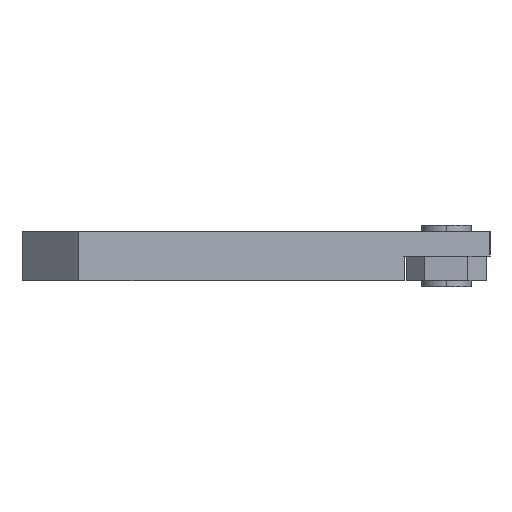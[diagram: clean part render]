
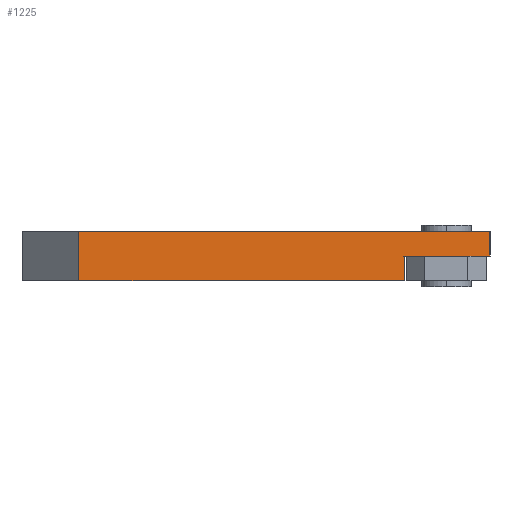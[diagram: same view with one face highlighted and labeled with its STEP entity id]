
A CAD part, left-side view. The second image highlights one B-rep face of the part: STEP entity #1225.
In plain terms, the highlighted planar face has unit normal (-0.707, -0.707, 0).
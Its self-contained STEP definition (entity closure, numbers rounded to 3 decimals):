
#18 = CARTESIAN_POINT ( 'NONE',  ( -2.121, -7.071, 4. ) ) ;
#27 = EDGE_CURVE ( 'NONE', #801, #542, #577, .T. ) ;
#30 = VERTEX_POINT ( 'NONE', #702 ) ;
#39 = ORIENTED_EDGE ( 'NONE', *, *, #1460, .F. ) ;
#41 = VECTOR ( 'NONE', #1505, 1000. ) ;
#47 = VECTOR ( 'NONE', #224, 1000. ) ;
#52 = ORIENTED_EDGE ( 'NONE', *, *, #267, .F. ) ;
#68 = CARTESIAN_POINT ( 'NONE',  ( -68.589, 59.397, -4. ) ) ;
#78 = EDGE_CURVE ( 'NONE', #149, #30, #1179, .T. ) ;
#104 = CARTESIAN_POINT ( 'NONE',  ( -68.589, 59.397, 4. ) ) ;
#118 = ORIENTED_EDGE ( 'NONE', *, *, #27, .F. ) ;
#127 = PLANE ( 'NONE',  #697 ) ;
#149 = VERTEX_POINT ( 'NONE', #743 ) ;
#154 = DIRECTION ( 'NONE',  ( 0.707, -0.707, 0. ) ) ;
#215 = CARTESIAN_POINT ( 'NONE',  ( -2.121, -7.071, 4. ) ) ;
#224 = DIRECTION ( 'NONE',  ( 0.707, -0.707, 0. ) ) ;
#267 = EDGE_CURVE ( 'NONE', #270, #30, #1146, .T. ) ;
#270 = VERTEX_POINT ( 'NONE', #215 ) ;
#304 = CARTESIAN_POINT ( 'NONE',  ( -15.91, 6.718, -4. ) ) ;
#313 = ORIENTED_EDGE ( 'NONE', *, *, #1303, .T. ) ;
#347 = EDGE_CURVE ( 'NONE', #1184, #542, #1528, .T. ) ;
#358 = CARTESIAN_POINT ( 'NONE',  ( -6.5, -2.692, 0. ) ) ;
#359 = VECTOR ( 'NONE', #366, 1000. ) ;
#366 = DIRECTION ( 'NONE',  ( 0.707, -0.707, 0. ) ) ;
#384 = CARTESIAN_POINT ( 'NONE',  ( -2.121, -7.071, 0. ) ) ;
#398 = CARTESIAN_POINT ( 'NONE',  ( -15.91, 6.718, 0. ) ) ;
#427 = LINE ( 'NONE', #871, #573 ) ;
#527 = DIRECTION ( 'NONE',  ( 0.707, -0.707, 0. ) ) ;
#542 = VERTEX_POINT ( 'NONE', #68 ) ;
#573 = VECTOR ( 'NONE', #527, 1000. ) ;
#577 = LINE ( 'NONE', #711, #770 ) ;
#583 = VERTEX_POINT ( 'NONE', #398 ) ;
#598 = DIRECTION ( 'NONE',  ( 0., 0., 1. ) ) ;
#644 = VECTOR ( 'NONE', #598, 1000. ) ;
#645 = VECTOR ( 'NONE', #154, 1000. ) ;
#697 = AXIS2_PLACEMENT_3D ( 'NONE', #18, #960, #1228 ) ;
#702 = CARTESIAN_POINT ( 'NONE',  ( -2.121, -7.071, 0. ) ) ;
#711 = CARTESIAN_POINT ( 'NONE',  ( -68.589, 59.397, -4. ) ) ;
#743 = CARTESIAN_POINT ( 'NONE',  ( -2.692, -6.5, 0. ) ) ;
#770 = VECTOR ( 'NONE', #1328, 1000. ) ;
#785 = ORIENTED_EDGE ( 'NONE', *, *, #78, .T. ) ;
#801 = VERTEX_POINT ( 'NONE', #304 ) ;
#842 = EDGE_LOOP ( 'NONE', ( #1143, #118, #1096, #313, #1323, #785, #52, #39 ) ) ;
#871 = CARTESIAN_POINT ( 'NONE',  ( -2.121, -7.071, 0. ) ) ;
#899 = DIRECTION ( 'NONE',  ( 0., 0., -1. ) ) ;
#906 = CARTESIAN_POINT ( 'NONE',  ( -68.589, 59.397, 4. ) ) ;
#955 = CARTESIAN_POINT ( 'NONE',  ( -2.121, -7.071, 4. ) ) ;
#960 = DIRECTION ( 'NONE',  ( 0.707, 0.707, 0. ) ) ;
#1066 = CARTESIAN_POINT ( 'NONE',  ( -15.91, 6.718, -4. ) ) ;
#1096 = ORIENTED_EDGE ( 'NONE', *, *, #1121, .T. ) ;
#1121 = EDGE_CURVE ( 'NONE', #801, #583, #1299, .T. ) ;
#1143 = ORIENTED_EDGE ( 'NONE', *, *, #347, .T. ) ;
#1146 = LINE ( 'NONE', #1411, #1166 ) ;
#1156 = LINE ( 'NONE', #1514, #47 ) ;
#1166 = VECTOR ( 'NONE', #899, 1000. ) ;
#1179 = LINE ( 'NONE', #384, #359 ) ;
#1184 = VERTEX_POINT ( 'NONE', #104 ) ;
#1185 = FACE_OUTER_BOUND ( 'NONE', #842, .T. ) ;
#1225 = ADVANCED_FACE ( 'NONE', ( #1185 ), #127, .F. ) ;
#1228 = DIRECTION ( 'NONE',  ( 0., 0., -1. ) ) ;
#1299 = LINE ( 'NONE', #1066, #644 ) ;
#1303 = EDGE_CURVE ( 'NONE', #583, #1458, #427, .T. ) ;
#1323 = ORIENTED_EDGE ( 'NONE', *, *, #1382, .T. ) ;
#1328 = DIRECTION ( 'NONE',  ( -0.707, 0.707, 0. ) ) ;
#1382 = EDGE_CURVE ( 'NONE', #1458, #149, #1156, .T. ) ;
#1411 = CARTESIAN_POINT ( 'NONE',  ( -2.121, -7.071, 4. ) ) ;
#1448 = LINE ( 'NONE', #955, #645 ) ;
#1458 = VERTEX_POINT ( 'NONE', #358 ) ;
#1460 = EDGE_CURVE ( 'NONE', #1184, #270, #1448, .T. ) ;
#1505 = DIRECTION ( 'NONE',  ( 0., 0., -1. ) ) ;
#1514 = CARTESIAN_POINT ( 'NONE',  ( -2.121, -7.071, 0. ) ) ;
#1528 = LINE ( 'NONE', #906, #41 ) ;
